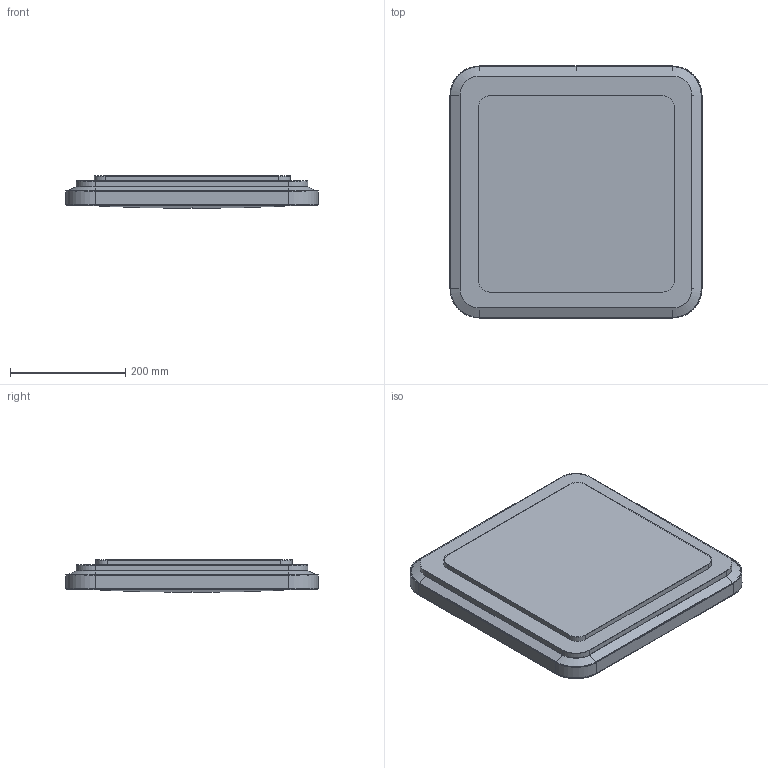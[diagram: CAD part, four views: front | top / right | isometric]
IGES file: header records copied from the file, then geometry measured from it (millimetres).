
Start section: SolidWorks IGES file using analytic representation for surfaces
Global section: file name: X:\PRODUKT\Modele 3D_WWW\_KOLEKCJE WWW\AGNES\AGNES-SQUARE-LED-8113-8110-8134-8137\AGNES-SQUARE-LED-8113-8110-8134-8137.IGS; native system: SolidWorks 2021; preprocessor: SolidWorks 2021; author: gabriela.tworek; date: 220831.102220; units: millimetre
Bounding box: 437 x 437 x 56.2 mm (x, y, z)
Surface area: 922220.6 mm2 (no closed solid volume)
Topology: 0 solids, 0 shells, 165 faces, 742 edges, 734 vertices
Faces by surface type: bspline 113, revolution 52
